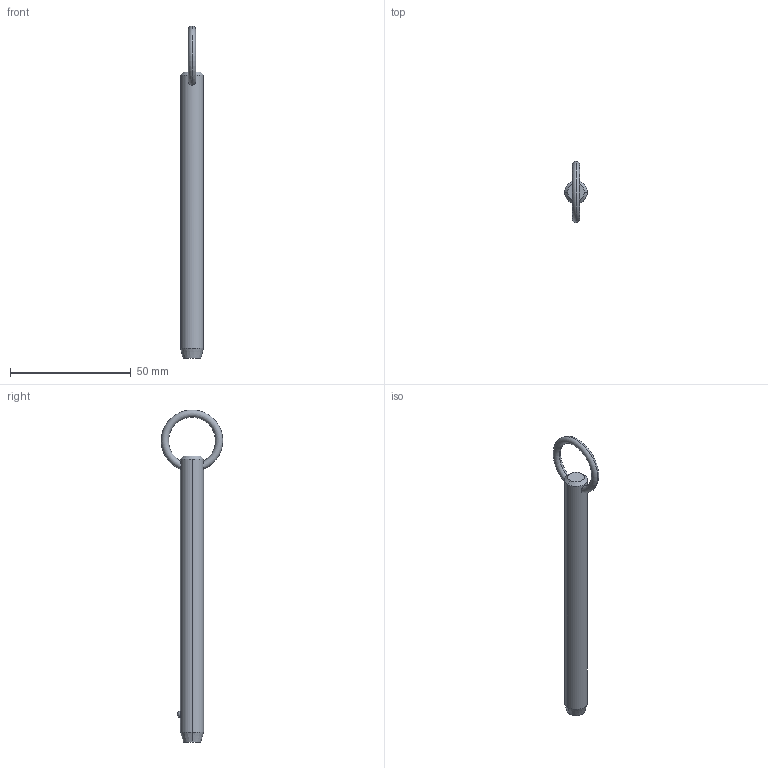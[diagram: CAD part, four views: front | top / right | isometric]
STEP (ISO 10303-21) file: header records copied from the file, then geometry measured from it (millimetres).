
FILE_DESCRIPTION (( 'STEP AP203' ), '1' );
FILE_NAME ('P1250.037-390.step', '2019-07-29T20:07:51', ( '' ), ( '' ), 'SwSTEP 2.0', 'SolidWorks 2017', '' );
FILE_SCHEMA (( 'CONFIG_CONTROL_DESIGN' ));
Length unit declared in the file: millimetre
Products named in the file (1): P1250.037-390
Bounding box: 9.52 x 25.39 x 137.2 mm (x, y, z)
Volume: 8761.2 mm3; surface area: 4175.8 mm2
Topology: 1 solids, 1 shells, 12 faces, 28 edges, 17 vertices
Faces by surface type: cone 4, torus 2, sphere 2, cylinder 2, plane 2
Entity records: 523 total; most frequent: CARTESIAN_POINT 190, DIRECTION 56, ORIENTED_EDGE 48, AXIS2_PLACEMENT_3D 25, EDGE_CURVE 24, EDGE_LOOP 15, VERTEX_POINT 15, CIRCLE 12
